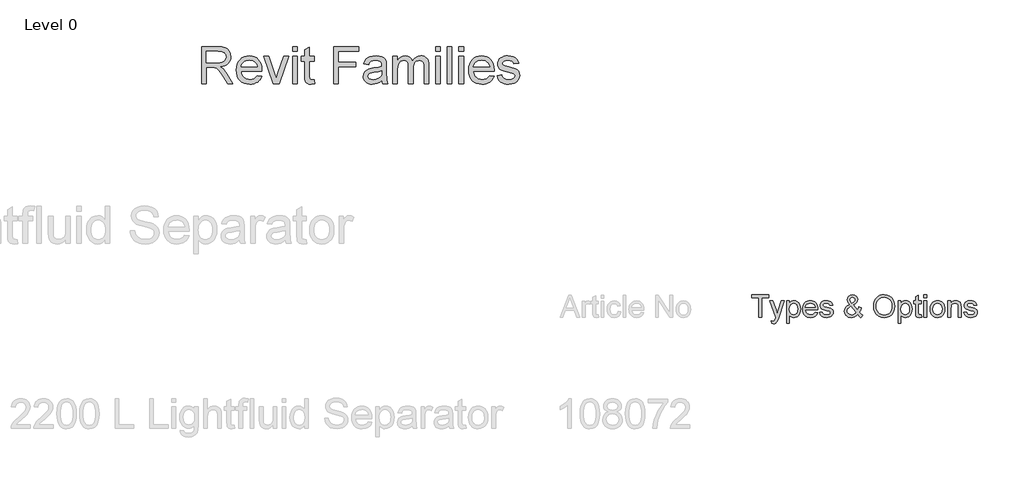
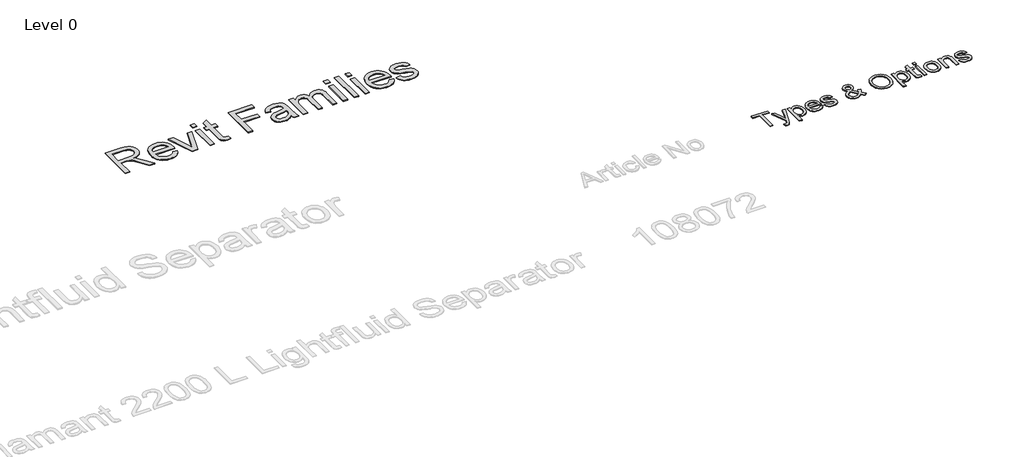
# One storey, part 8 of 8: 2 proxies.
"""IFC4 building model written with IfcOpenShell, lengths in millimetres."""

from ifc_helpers import new_model, si_unit, origin, origin_with_axes, place, context, project, spatial, polyline, outline, extrude, element, save

model = new_model("IFC4")

# Units and contexts
model_context = context("Model", 3, world=origin())
ifc_project = project(units=[si_unit("LENGTHUNIT", "METRE", prefix="MILLI")], contexts=[model_context])

# Site, building, storey
site = spatial("IfcSite", under=ifc_project)
building = spatial("IfcBuilding", under=site)
storey = spatial("IfcBuildingStorey", under=building, Name="Level 0", Elevation=0.0)

# Proxies
placement = place(None, origin())
element("IfcBuildingElementProxy", 1, Name="300mm Arial", ObjectType="300mm Arial", at=placement, inside=storey, context=model_context, shape_type="SweptSolid", body=[
    extrude(outline(polyline([(-1087.829451, 11653.8274553), (-1087.829451, 11917.5252695), (-1186.7161313, 11917.5252695), (-1186.7161313, 11955.1963858), (-951.2716544, 11955.1963858), (-951.2716544, 11917.5252695), (-1050.1583347, 11917.5252695), (-1050.1583347, 11653.8274553), (-1087.829451, 11653.8274553)])), origin_with_axes(), (0.0, 0.0, 1.0), 10.0),
    extrude(outline(polyline([(-913.6005381, 11569.0674436), (-918.3094276, 11605.3406084), (-899.1795639, 11602.0296704), (-881.3004989, 11606.186737), (-870.3376155, 11617.7750198), (-860.0369196, 11645.5133222), (-857.0938636, 11654.6367957), (-937.1449858, 11875.1452636), (-897.4137303, 11875.1452636), (-854.9601481, 11752.2726772), (-840.1712919, 11703.1236427), (-825.3824356, 11746.5337181), (-781.751631, 11875.1452636), (-742.3146811, 11875.1452636), (-819.3491709, 11648.5299546), (-839.3619515, 11599.38092), (-849.607465, 11583.690753), (-861.214142, 11572.81984), (-874.6970171, 11566.4738756), (-890.5711252, 11564.3585541), (-913.6005381, 11569.0674436)])), origin_with_axes(), (0.0, 0.0, 1.0), 10.0),
    extrude(outline(polyline([(-711.1182879, 11569.0674436), (-711.1182879, 11875.1452636), (-673.4471716, 11875.1452636), (-673.4471716, 11838.2099113), (-661.159913, 11856.4292671), (-647.4011264, 11869.4430927), (-631.3614714, 11877.2513881), (-612.2316076, 11879.8541532), (-586.7557795, 11876.2121214), (-564.4805247, 11865.2860262), (-546.3439423, 11847.738055), (-533.2841315, 11824.2303955), (-525.3930627, 11796.473699), (-522.7627064, 11766.1786167), (-525.7333535, 11733.9613509), (-534.6452949, 11705.1469937), (-549.2134219, 11681.1978758), (-569.152626, 11663.5763282), (-592.3751769, 11652.7330064), (-616.7933444, 11649.1185658), (-634.1113893, 11651.5373899), (-649.5716301, 11658.7938623), (-662.8061849, 11669.7475487), (-673.4471716, 11683.2580149), (-673.4471716, 11569.0674436), (-711.1182879, 11569.0674436)]), holes=[polyline([(-673.4471716, 11762.7205259), (-669.3728785, 11728.9489587), (-657.1499992, 11705.3309347), (-639.1145844, 11691.4249952), (-617.6026848, 11686.7896821), (-595.7412972, 11691.5905421), (-577.2460299, 11705.9931223), (-564.6368745, 11730.475669), (-560.4338227, 11765.5164291), (-564.535707, 11799.1040552), (-576.8413597, 11823.0531731), (-594.8491834, 11837.4005709), (-616.0575804, 11842.1830369), (-637.3487509, 11837.0970683), (-656.0463533, 11821.8391625), (-669.096967, 11796.8875662), (-673.4471716, 11762.7205259)])]), origin_with_axes(), (0.0, 0.0, 1.0), 10.0),
    extrude(outline(polyline([(-325.4308042, 11719.7519089), (-288.4954519, 11715.0430193), (-301.8035831, 11687.2127464), (-323.0395712, 11666.4090196), (-351.7251698, 11653.4411792), (-387.3821322, 11649.1185658), (-410.7564345, 11650.9832677), (-431.5831539, 11656.5773732), (-449.8622905, 11665.9008826), (-465.5938444, 11678.9537956), (-478.2443865, 11695.3728289), (-487.280488, 11714.794699), (-492.7021489, 11737.2194059), (-494.5093692, 11762.6469495), (-492.6837548, 11788.9367166), (-487.2069116, 11812.1086838), (-478.0788396, 11832.162851), (-465.2995388, 11849.0992184), (-449.6093717, 11862.5545023), (-431.7487008, 11872.1654195), (-411.7175262, 11877.9319697), (-389.5158478, 11879.8541532), (-368.02924, 11877.9365683), (-348.5981728, 11872.1838136), (-331.2226464, 11862.5958891), (-315.9026605, 11849.1727948), (-303.396972, 11832.2732156), (-294.4643373, 11812.2558366), (-289.1047564, 11789.1206576), (-287.3182295, 11762.8676787), (-287.5389587, 11752.7141356), (-456.8382529, 11752.7141356), (-450.3175445, 11724.5159807), (-435.1700034, 11703.7858303), (-413.3086158, 11691.0387191), (-386.6463682, 11686.7896821), (-366.5967995, 11688.7578508), (-349.7110159, 11694.6623568), (-335.9890175, 11704.8710822), (-325.4308042, 11719.7519089)]), holes=[polyline([(-456.8382529, 11790.3852519), (-324.9893458, 11790.3852519), (-330.0845114, 11810.2876679), (-340.0725076, 11824.5247011), (-362.0350627, 11837.7684529), (-389.6630006, 11842.1830369), (-415.0560553, 11838.6605668), (-436.0529201, 11828.0931565), (-450.6486383, 11811.6212401), (-456.8382529, 11790.3852519)])]), origin_with_axes(), (0.0, 0.0, 1.0), 10.0),
    extrude(outline(polyline([(-263.7737818, 11719.7519089), (-226.1026655, 11724.4607984), (-220.1613713, 11708.347567), (-208.6650589, 11696.5017668), (-191.5401521, 11689.2177033), (-168.7130743, 11686.7896821), (-146.1619079, 11689.0153682), (-130.306194, 11695.6924264), (-120.9252031, 11705.3677229), (-117.7982061, 11716.5881237), (-120.9435972, 11726.1898438), (-130.3797704, 11733.5106955), (-169.1545326, 11744.2528497), (-225.8819363, 11762.6837377), (-240.2385312, 11771.9451669), (-250.6403946, 11784.2048344), (-256.9587678, 11798.6809909), (-259.0648923, 11814.5918872), (-257.3726351, 11829.1876054), (-252.2958636, 11842.6612835), (-244.2944302, 11854.4794926), (-233.8281874, 11864.1088038), (-209.8790695, 11875.2556282), (-177.4686657, 11879.8541532), (-152.9493308, 11878.0055461), (-131.6305691, 11872.4597251), (-114.4872682, 11863.7593159), (-102.4943151, 11852.4469445), (-94.548064, 11837.6856795), (-89.5448689, 11818.6385892), (-127.2159852, 11813.9296996), (-131.97086, 11825.7846969), (-141.379442, 11834.7150324), (-155.5337018, 11840.3160357), (-174.5256098, 11842.1830369), (-196.1570711, 11840.3988092), (-210.5780453, 11835.0461262), (-218.6898433, 11827.3206043), (-221.393776, 11818.41786), (-216.9056156, 11807.4549765), (-202.8525234, 11799.1408434), (-170.4053314, 11791.1210159), (-115.1126676, 11773.3891038), (-100.5077523, 11764.9094238), (-89.4345043, 11753.3027468), (-82.4539434, 11738.5322847), (-80.1270898, 11720.5612493), (-82.8586136, 11701.9832085), (-91.0531851, 11684.5088137), (-104.3981044, 11669.5084254), (-122.5806721, 11658.3524039), (-144.5432272, 11651.4270253), (-169.228109, 11649.1185658), (-207.211925, 11653.5699379), (-234.9318334, 11666.9240544), (-253.4362977, 11689.0337623), (-263.7737818, 11719.7519089)])), origin_with_axes(), (0.0, 0.0, 1.0), 10.0),
    extrude(outline(polyline([(252.8061158, 11691.0571132), (233.657858, 11672.7089987), (212.8541311, 11659.6032027), (190.3581471, 11651.739725), (166.1331178, 11649.1185658), (144.1521685, 11651.0591433), (124.5624523, 11656.8808759), (107.363969, 11666.5837635), (92.5567187, 11680.1678062), (76.0572112, 11706.9680095), (70.5573754, 11736.748057), (74.9811564, 11763.1435902), (88.2524994, 11786.8535848), (110.316222, 11807.8596467), (141.1171421, 11826.1433819), (114.8135794, 11864.2559566), (108.2284917, 11892.5092938), (113.4156278, 11917.9483338), (128.9770362, 11939.8189184), (152.3927252, 11954.8836861), (181.1427032, 11959.9052753), (208.4947295, 11955.1044153), (230.3653141, 11940.7018352), (244.7127119, 11919.5670146), (249.4951779, 11894.569433), (245.9543137, 11873.5817652), (235.331721, 11854.1759899), (217.6274, 11836.3521072), (192.8413506, 11820.1101172), (247.3614623, 11752.1991008), (256.6504827, 11771.6048761), (263.6218465, 11793.9169191), (301.2929628, 11785.7499388), (289.7046799, 11750.8563316), (274.6583063, 11723.7250344), (296.0690385, 11698.7458469), (320.1285209, 11678.107667), (291.8751837, 11649.1185658), (272.6533495, 11666.7033252), (252.8061158, 11691.0571132)]), holes=[polyline([(227.569411, 11718.2068045), (160.3205822, 11802.1574758), (134.6332219, 11785.7683329), (118.9338578, 11770.5932006), (110.9048332, 11756.09865), (108.2284917, 11741.7512522), (111.8889176, 11723.9825518), (122.8701951, 11705.5516639), (140.5653191, 11691.4801775), (164.3672842, 11686.7896821), (181.4094176, 11688.97858), (198.9849799, 11695.5452736), (215.0522261, 11705.5884521), (227.569411, 11718.2068045)]), polyline([(173.7850633, 11843.875294), (193.4851441, 11856.3740848), (204.7607272, 11867.2358007), (210.058228, 11877.803211), (211.8240616, 11889.419085), (209.4972079, 11902.5800634), (202.5166471, 11913.0738973), (192.0412073, 11919.9440936), (179.2297168, 11922.234159), (166.1423148, 11919.9624877), (155.4277517, 11913.1474737), (148.2816439, 11903.05831), (145.899608, 11890.9641894), (149.1369696, 11877.1686146), (158.9226307, 11861.8279354), (173.7850633, 11843.875294)])]), origin_with_axes(), (0.0, 0.0, 1.0), 10.0),
    extrude(outline(polyline([(466.1040966, 11800.538795), (468.6148912, 11835.8876562), (476.1472751, 11867.1806184), (488.7012482, 11894.4176817), (506.2768105, 11917.5988459), (527.8208998, 11936.1079088), (552.280454, 11949.328668), (579.655473, 11957.2611235), (609.9459567, 11959.9052753), (649.4748771, 11954.9388684), (684.9203074, 11940.0396476), (714.350867, 11916.2560766), (735.8351755, 11884.6366191), (748.9685627, 11846.7079854), (753.3463585, 11803.9968858), (748.7386365, 11760.715569), (734.9154705, 11722.2535064), (712.6402157, 11690.5788667), (682.6762272, 11667.6598184), (647.5342996, 11653.7538789), (609.7252275, 11649.1185658), (569.5893019, 11654.2413226), (533.9415365, 11669.6095929), (504.5845533, 11693.8346223), (483.320974, 11725.5276562), (470.408316, 11761.993959), (466.1040966, 11800.538795)]), holes=[polyline([(503.7752129, 11800.170913), (505.6583089, 11775.1963241), (511.3075968, 11753.0268353), (520.7230766, 11733.6624468), (533.9047483, 11717.1031585), (549.9283085, 11703.8410126), (567.8694535, 11694.3680512), (587.7281835, 11688.6842744), (609.5044983, 11686.7896821), (631.6532937, 11688.7026685), (651.7465484, 11694.4416276), (669.7842625, 11704.0065595), (685.7664359, 11717.3974641), (698.8515387, 11734.3062403), (708.1980406, 11754.4247869), (713.8059418, 11777.7531039), (715.6752422, 11804.2911914), (712.4746688, 11837.6396942), (702.8729487, 11866.4632485), (687.1184023, 11890.0352874), (665.4593498, 11907.6292438), (639.3305311, 11918.5829302), (610.1666859, 11922.234159), (589.1468284, 11920.4752232), (569.6444842, 11915.1984159), (551.6596531, 11906.4037369), (535.1923353, 11894.0911864), (521.4473443, 11877.6675546), (511.6294935, 11856.5396317), (505.7387831, 11830.7074179), (503.7752129, 11800.170913)])]), origin_with_axes(), (0.0, 0.0, 1.0), 10.0),
    extrude(outline(polyline([(800.4352538, 11569.0674436), (800.4352538, 11875.1452636), (838.1063701, 11875.1452636), (838.1063701, 11838.2099113), (850.3936288, 11856.4292671), (864.1524154, 11869.4430927), (880.1920704, 11877.2513881), (899.3219341, 11879.8541532), (924.7977623, 11876.2121214), (947.0730171, 11865.2860262), (965.2095995, 11847.738055), (978.2694103, 11824.2303955), (986.1604791, 11796.473699), (988.7908354, 11766.1786167), (985.8201883, 11733.9613509), (976.9082469, 11705.1469937), (962.3401199, 11681.1978758), (942.4009158, 11663.5763282), (919.1783648, 11652.7330064), (894.7601974, 11649.1185658), (877.4421525, 11651.5373899), (861.9819116, 11658.7938623), (848.7473569, 11669.7475487), (838.1063701, 11683.2580149), (838.1063701, 11569.0674436), (800.4352538, 11569.0674436)]), holes=[polyline([(838.1063701, 11762.7205259), (842.1806632, 11728.9489587), (854.4035425, 11705.3309347), (872.4389573, 11691.4249952), (893.950857, 11686.7896821), (915.8122446, 11691.5905421), (934.3075119, 11705.9931223), (946.9166673, 11730.475669), (951.1197191, 11765.5164291), (947.0178348, 11799.1040552), (934.7121821, 11823.0531731), (916.7043584, 11837.4005709), (895.4959614, 11842.1830369), (874.2047909, 11837.0970683), (855.5071885, 11821.8391625), (842.4565747, 11796.8875662), (838.1063701, 11762.7205259)])]), origin_with_axes(), (0.0, 0.0, 1.0), 10.0),
    extrude(outline(polyline([(1111.2219634, 11685.2445777), (1115.9308529, 11652.7238093), (1087.7510921, 11649.1185658), (1069.669692, 11650.6820643), (1056.1868169, 11655.3725597), (1046.6586732, 11662.6014409), (1040.4414675, 11671.7800967), (1037.0201649, 11687.5438402), (1035.8797308, 11714.5279845), (1035.8797308, 11837.4741473), (1007.6263935, 11837.4741473), (1007.6263935, 11875.1452636), (1035.8797308, 11875.1452636), (1035.8797308, 11928.9296113), (1073.5508471, 11951.0761074), (1073.5508471, 11875.1452636), (1111.2219634, 11875.1452636), (1111.2219634, 11837.4741473), (1073.5508471, 11837.4741473), (1073.5508471, 11715.6316305), (1075.5374098, 11696.2074612), (1081.9753447, 11689.3280679), (1094.8144264, 11686.7896821), (1111.2219634, 11685.2445777)])), origin_with_axes(), (0.0, 0.0, 1.0), 10.0),
    extrude(outline(polyline([(1148.8930797, 11917.5252695), (1148.8930797, 11955.1963858), (1186.564196, 11955.1963858), (1186.564196, 11917.5252695), (1148.8930797, 11917.5252695)])), origin_with_axes(), (0.0, 0.0, 1.0), 10.0),
    extrude(outline(polyline([(1148.8930797, 11653.8274553), (1148.8930797, 11875.1452636), (1186.564196, 11875.1452636), (1186.564196, 11653.8274553), (1148.8930797, 11653.8274553)])), origin_with_axes(), (0.0, 0.0, 1.0), 10.0),
    extrude(outline(polyline([(1233.6530914, 11764.4863595), (1235.6902379, 11793.1489654), (1241.8016776, 11817.8476429), (1251.9874103, 11838.5823918), (1266.2474361, 11855.3532123), (1280.604031, 11866.0723739), (1296.4505479, 11873.728918), (1313.786987, 11878.3228444), (1332.6133481, 11879.8541532), (1353.3963815, 11877.9894513), (1372.1882537, 11872.3953457), (1388.9889646, 11863.0718364), (1403.7985141, 11850.0189234), (1415.8857369, 11833.678065), (1424.5194675, 11814.4907197), (1429.6997059, 11792.4568874), (1431.426452, 11767.5765682), (1428.3730314, 11729.5191758), (1419.2127697, 11700.5484687), (1404.2123814, 11678.8526281), (1383.6385808, 11662.619835), (1359.2020193, 11652.4938831), (1332.6133481, 11649.1185658), (1311.526812, 11650.9763699), (1292.5601958, 11656.5497821), (1275.7134997, 11665.8388025), (1260.9867236, 11678.843431), (1249.0282595, 11695.3429385), (1240.4864994, 11715.1165957), (1235.3614434, 11738.1644027), (1233.6530914, 11764.4863595)]), holes=[polyline([(1271.3242077, 11764.5599359), (1275.6836093, 11730.466472), (1288.7618142, 11706.1770632), (1308.443501, 11691.6365274), (1332.6133481, 11686.7896821), (1356.6728305, 11691.6641185), (1376.3177291, 11706.2874278), (1389.395934, 11730.8987333), (1393.7553357, 11765.7371583), (1389.3683429, 11798.8373408), (1376.2073645, 11822.7956557), (1356.5348748, 11837.3361916), (1332.6133481, 11842.1830369), (1308.443501, 11837.3545857), (1288.7618142, 11822.8692321), (1275.6836093, 11798.6350057), (1271.3242077, 11764.5599359)])]), origin_with_axes(), (0.0, 0.0, 1.0), 10.0),
    extrude(outline(polyline([(1473.8064578, 11653.8274553), (1473.8064578, 11875.1452636), (1511.4775741, 11875.1452636), (1511.4775741, 11844.243176), (1524.5649761, 11859.8229785), (1540.2827343, 11870.9514089), (1558.6308488, 11877.6284671), (1579.6093196, 11879.8541532), (1598.1781633, 11878.0607284), (1615.1835086, 11872.6804543), (1629.3653595, 11864.3847153), (1639.4637202, 11853.8448961), (1650.7576975, 11826.1433819), (1652.7442603, 11789.7230644), (1652.7442603, 11653.8274553), (1615.073144, 11653.8274553), (1615.073144, 11784.6462928), (1610.7321364, 11817.9764016), (1604.7264628, 11827.9000184), (1595.3914572, 11835.5979492), (1583.4260953, 11840.5367649), (1569.529353, 11842.1830369), (1547.4656303, 11838.4858228), (1528.6576633, 11827.3941807), (1521.1413743, 11818.3396851), (1515.7725964, 11805.9650544), (1511.4775741, 11771.2553882), (1511.4775741, 11653.8274553), (1473.8064578, 11653.8274553)])), origin_with_axes(), (0.0, 0.0, 1.0), 10.0),
    extrude(outline(polyline([(1690.4153766, 11719.7519089), (1728.0864929, 11724.4607984), (1734.0277871, 11708.347567), (1745.5240994, 11696.5017668), (1762.6490063, 11689.2177033), (1785.4760841, 11686.7896821), (1808.0272504, 11689.0153682), (1823.8829644, 11695.6924264), (1833.2639553, 11705.3677229), (1836.3909523, 11716.5881237), (1833.2455612, 11726.1898438), (1823.809388, 11733.5106955), (1785.0346257, 11744.2528497), (1728.3072221, 11762.6837377), (1713.9506272, 11771.9451669), (1703.5487638, 11784.2048344), (1697.2303905, 11798.6809909), (1695.1242661, 11814.5918872), (1696.8165233, 11829.1876054), (1701.8932948, 11842.6612835), (1709.8947282, 11854.4794926), (1720.360971, 11864.1088038), (1744.3100889, 11875.2556282), (1776.7204926, 11879.8541532), (1801.2398276, 11878.0055461), (1822.5585892, 11872.4597251), (1839.7018902, 11863.7593159), (1851.6948433, 11852.4469445), (1859.6410944, 11837.6856795), (1864.6442895, 11818.6385892), (1826.9731732, 11813.9296996), (1822.2182984, 11825.7846969), (1812.8097164, 11834.7150324), (1798.6554566, 11840.3160357), (1779.6635486, 11842.1830369), (1758.0320873, 11840.3988092), (1743.6111131, 11835.0461262), (1735.4993151, 11827.3206043), (1732.7953824, 11818.41786), (1737.2835428, 11807.4549765), (1751.336635, 11799.1408434), (1783.7838269, 11791.1210159), (1839.0764908, 11773.3891038), (1853.681406, 11764.9094238), (1864.7546541, 11753.3027468), (1871.7352149, 11738.5322847), (1874.0620686, 11720.5612493), (1871.3305447, 11701.9832085), (1863.1359733, 11684.5088137), (1849.7910539, 11669.5084254), (1831.6084863, 11658.3524039), (1809.6459312, 11651.4270253), (1784.9610493, 11649.1185658), (1746.9772333, 11653.5699379), (1719.257325, 11666.9240544), (1700.7528606, 11689.0337623), (1690.4153766, 11719.7519089)])), origin_with_axes(), (0.0, 0.0, 1.0), 10.0),
])
element("IfcBuildingElementProxy", 2, Name="600mm Arial", ObjectType="600mm Arial", at=placement, inside=storey, context=model_context, shape_type="SweptSolid", body=[
    extrude(outline(polyline([(-8637.1018415, 14819.3449091), (-8637.1018415, 15321.6264599), (-8420.664601, 15321.6264599), (-8362.4932606, 15318.2388799), (-8320.1715027, 15308.0761397), (-8289.2387583, 15289.314158), (-8265.2344581, 15260.128853), (-8249.8293995, 15223.9384618), (-8244.69438, 15184.161221), (-8246.8211978, 15158.3634961), (-8253.2016511, 15134.6810927), (-8263.8357401, 15113.1140107), (-8278.7234646, 15093.6622502), (-8298.0564298, 15076.9466121), (-8322.0262411, 15063.5878971), (-8350.6328983, 15053.5861054), (-8383.8764015, 15046.9412368), (-8363.1830393, 15033.4215735), (-8348.191848, 15020.0858512), (-8297.3015053, 14955.4612474), (-8213.5470378, 14819.3449091), (-8286.5103001, 14819.3449091), (-8351.8706679, 14923.4555138), (-8399.0821907, 14992.3720742), (-8416.6332275, 15012.4676282), (-8432.2528839, 15024.9296308), (-8462.1126392, 15036.8857956), (-8498.5329567, 15039.0930876), (-8574.3166477, 15039.0930876), (-8574.3166477, 14819.3449091), (-8637.1018415, 14819.3449091)]), holes=[polyline([(-8574.3166477, 15101.8782814), (-8433.7857255, 15101.8782814), (-8393.426005, 15104.1009018), (-8362.1100501, 15110.768763), (-8338.5349456, 15122.326389), (-8321.397776, 15139.2183039), (-8310.9591244, 15159.6510831), (-8307.4795739, 15181.8313017), (-8309.1388749, 15197.887818), (-8314.1167782, 15212.4574778), (-8322.4132836, 15225.5402813), (-8334.0283912, 15237.1362283), (-8349.2303482, 15246.6321823), (-8368.287402, 15253.4150066), (-8417.9667997, 15258.841266), (-8574.3166477, 15258.841266), (-8574.3166477, 15101.8782814)])]), origin_with_axes(), (0.0, 0.0, 1.0), 10.0),
    extrude(outline(polyline([(-7884.4152794, 14929.2189984), (-7822.8563589, 14921.3708491), (-7832.2948313, 14896.7150913), (-7845.0365775, 14874.9870609), (-7861.0815974, 14856.1867581), (-7880.4298911, 14840.3141829), (-7902.8821891, 14827.7065603), (-7928.2392221, 14818.7011157), (-7956.5009899, 14813.2978488), (-7987.6674927, 14811.4967599), (-8026.6246632, 14814.6045964), (-8061.3358622, 14823.9281057), (-8091.80109, 14839.4672879), (-8118.0203463, 14861.2221429), (-8139.1045832, 14888.5871984), (-8154.1647524, 14920.9569819), (-8163.2008539, 14958.3314933), (-8166.2128877, 15000.7107328), (-8163.170197, 15044.5270112), (-8154.042125, 15083.1469565), (-8138.8286717, 15116.5705686), (-8117.529837, 15144.7978475), (-8091.3795585, 15167.2233208), (-8061.6117737, 15183.241516), (-8028.2264827, 15192.8524332), (-7991.2236853, 15196.0560722), (-7955.4126724, 15192.8600974), (-7923.0275605, 15183.2721729), (-7894.0683497, 15167.2922987), (-7868.5350399, 15144.9204749), (-7847.6922257, 15116.7545096), (-7832.8045012, 15083.3922112), (-7823.8718665, 15044.8335796), (-7820.8943216, 15001.0786148), (-7821.2622036, 14984.156043), (-8103.4276939, 14984.156043), (-8099.7910271, 14959.1017463), (-8092.5598466, 14937.1591181), (-8081.7341525, 14918.3281585), (-8067.3139447, 14902.6088674), (-8050.0963009, 14890.2158427), (-8030.8782987, 14881.3636822), (-8009.6599382, 14876.0523859), (-7986.4412194, 14874.2819538), (-7953.0252715, 14877.5622349), (-7924.8822989, 14887.4030783), (-7902.0123015, 14904.4176205), (-7884.4152794, 14929.2189984)]), holes=[polyline([(-8103.4276939, 15046.9412368), (-7883.6795154, 15046.9412368), (-7892.1714581, 15080.1119301), (-7908.8181184, 15103.8403187), (-7925.9399596, 15116.7161886), (-7945.4223769, 15125.9132385), (-7967.2653704, 15131.4314684), (-7991.46894, 15133.2708784), (-8033.7906979, 15127.4000949), (-8052.2039581, 15120.0616155), (-8068.7854727, 15109.7877443), (-8082.6998427, 15097.0536624), (-8093.1116696, 15082.3345504), (-8100.0209533, 15065.6304086), (-8103.4276939, 15046.9412368)])]), origin_with_axes(), (0.0, 0.0, 1.0), 10.0),
    extrude(outline(polyline([(-7667.6101569, 14819.3449091), (-7797.3498739, 15188.207923), (-7730.8858601, 15188.207923), (-7652.2817404, 14967.2334712), (-7628.6146654, 14892.9213082), (-7605.4380997, 14963.0641419), (-7526.3434708, 15188.207923), (-7459.879457, 15188.207923), (-7588.0250186, 14819.3449091), (-7667.6101569, 14819.3449091)])), origin_with_axes(), (0.0, 0.0, 1.0), 10.0),
    extrude(outline(polyline([(-7404.9424124, 14819.3449091), (-7404.9424124, 15188.207923), (-7342.1572185, 15188.207923), (-7342.1572185, 14819.3449091), (-7404.9424124, 14819.3449091)])), origin_with_axes(), (0.0, 0.0, 1.0), 10.0),
    extrude(outline(polyline([(-7404.9424124, 15258.841266), (-7404.9424124, 15321.6264599), (-7342.1572185, 15321.6264599), (-7342.1572185, 15258.841266), (-7404.9424124, 15258.841266)])), origin_with_axes(), (0.0, 0.0, 1.0), 10.0),
    extrude(outline(polyline([(-7114.5608908, 14871.7067798), (-7106.7127416, 14817.5054992), (-7153.6790096, 14811.4967599), (-7183.8146764, 14814.1025907), (-7206.286135, 14821.9200831), (-7222.1663744, 14833.9682185), (-7232.5283839, 14849.2659781), (-7238.2305549, 14875.5388839), (-7240.1312785, 14920.5124578), (-7240.1312785, 15125.4227291), (-7287.2201739, 15125.4227291), (-7287.2201739, 15188.207923), (-7240.1312785, 15188.207923), (-7240.1312785, 15277.8485025), (-7177.3460847, 15314.7593293), (-7177.3460847, 15188.207923), (-7114.5608908, 15188.207923), (-7114.5608908, 15125.4227291), (-7177.3460847, 15125.4227291), (-7177.3460847, 14922.3518678), (-7174.0351467, 14889.9782522), (-7163.3052552, 14878.5125967), (-7141.9067858, 14874.2819538), (-7114.5608908, 14871.7067798)])), origin_with_axes(), (0.0, 0.0, 1.0), 10.0),
    extrude(outline(polyline([(-6847.723817, 14819.3449091), (-6847.723817, 15321.6264599), (-6510.2534001, 15321.6264599), (-6510.2534001, 15258.841266), (-6784.9386231, 15258.841266), (-6784.9386231, 15109.7264307), (-6549.4941462, 15109.7264307), (-6549.4941462, 15046.9412368), (-6784.9386231, 15046.9412368), (-6784.9386231, 14819.3449091), (-6847.723817, 14819.3449091)])), origin_with_axes(), (0.0, 0.0, 1.0), 10.0),
    extrude(outline(polyline([(-6196.3274309, 14866.4338045), (-6226.3251419, 14840.7127217), (-6257.2119011, 14823.8821204), (-6289.6928156, 14814.5931), (-6324.4729925, 14811.4967599), (-6352.428192, 14813.3591625), (-6376.9421621, 14818.9463703), (-6398.0149026, 14828.2583833), (-6415.6464137, 14841.2952015), (-6429.5684479, 14857.2290904), (-6439.5127581, 14875.2323156), (-6445.4793442, 14895.3048769), (-6447.4682062, 14917.4467745), (-6444.4638366, 14943.4744257), (-6435.4507277, 14967.1108439), (-6421.547854, 14987.3443536), (-6403.8741898, 15003.1632794), (-6383.1041855, 15015.1194442), (-6359.9122914, 15023.7646711), (-6305.5883834, 15033.2069757), (-6241.3929753, 15043.1397895), (-6196.6953129, 15054.7893861), (-6196.3274309, 15068.7689019), (-6200.6500443, 15096.7892472), (-6213.6178846, 15115.1220333), (-6226.6930239, 15123.062153), (-6242.6192486, 15128.7336671), (-6283.0249544, 15133.2708784), (-6320.4262906, 15130.2511803), (-6346.5459122, 15121.1920862), (-6364.3575322, 15104.438127), (-6376.8348632, 15078.3338337), (-6439.620057, 15086.181983), (-6428.7215529, 15120.5176359), (-6412.458103, 15147.4956488), (-6389.3121942, 15168.1276974), (-6357.7663131, 15183.425457), (-6319.1846888, 15192.8984184), (-6274.9315505, 15196.0560722), (-6232.4871653, 15193.2663004), (-6198.8412912, 15184.896985), (-6173.4727619, 15172.3123551), (-6155.8604114, 15156.8766397), (-6144.1801581, 15137.7927612), (-6136.6079203, 15114.2636419), (-6133.542237, 15059.3265973), (-6133.542237, 14981.212987), (-6130.3539264, 14872.1359755), (-6125.6327741, 14845.1732909), (-6117.8459386, 14819.3449091), (-6180.6311324, 14819.3449091), (-6190.6865736, 14841.1725742), (-6196.3274309, 14866.4338045)]), holes=[polyline([(-6196.3274309, 14992.0041922), (-6238.511233, 14981.5502122), (-6297.6176069, 14972.7517011), (-6351.6349465, 14962.5736326), (-6365.6911044, 14955.6145315), (-6376.0990992, 14946.0189428), (-6382.5370341, 14934.5226305), (-6384.6830124, 14921.8613585), (-6380.0078454, 14903.1913472), (-6365.9823443, 14887.8935876), (-6342.9130775, 14877.6848622), (-6311.1066134, 14874.2819538), (-6277.3840971, 14878.0374158), (-6247.5856555, 14889.3038019), (-6223.4280712, 14905.9044769), (-6206.6281267, 14925.6628057), (-6199.1785163, 14946.0189428), (-6196.6953129, 14974.2232291), (-6196.3274309, 14992.0041922)])]), origin_with_axes(), (0.0, 0.0, 1.0), 10.0),
    extrude(outline(polyline([(-6047.2125955, 14819.3449091), (-6047.2125955, 15188.207923), (-5984.4274016, 15188.207923), (-5984.4274016, 15127.5073938), (-5965.5427926, 15155.3897833), (-5941.2625809, 15177.2327768), (-5912.4145011, 15191.3502483), (-5879.8262877, 15196.0560722), (-5844.908155, 15191.2582778), (-5816.9184665, 15176.8648948), (-5796.0105064, 15153.8262848), (-5782.337559, 15123.0928098), (-5759.4522332, 15155.0142371), (-5733.3479399, 15177.8152566), (-5704.0246792, 15191.4958683), (-5671.4824511, 15196.0560722), (-5646.3476802, 15194.1591807), (-5624.2862568, 15188.4685061), (-5605.2981809, 15178.9840484), (-5589.3834525, 15165.7058076), (-5576.8026547, 15148.4804996), (-5567.8163705, 15127.1548402), (-5562.4246, 15101.7288294), (-5560.6273432, 15072.2024672), (-5560.6273432, 14819.3449091), (-5623.412537, 14819.3449091), (-5623.412537, 15045.2244542), (-5624.8687366, 15076.540409), (-5629.2373353, 15097.6476385), (-5637.4227097, 15112.1023352), (-5650.3292364, 15123.4606918), (-5666.9299114, 15130.8183317), (-5686.1977309, 15133.2708784), (-5703.9901903, 15131.6997157), (-5720.211487, 15126.9862276), (-5734.8616211, 15119.1304142), (-5747.9405924, 15108.1322754), (-5758.6973087, 15093.6699144), (-5766.3806774, 15075.4214346), (-5770.9906987, 15053.3868359), (-5772.5273724, 15027.5661184), (-5772.5273724, 14819.3449091), (-5835.3125663, 14819.3449091), (-5835.3125663, 15052.2142121), (-5838.945401, 15087.7148246), (-5849.8439051, 15113.0373686), (-5858.270702, 15121.8895291), (-5869.0197541, 15128.2125009), (-5897.4846235, 15133.2708784), (-5921.6728646, 15129.8986267), (-5943.9603822, 15119.7818719), (-5962.3544819, 15103.1658684), (-5974.8624698, 15080.2958711), (-5982.0361687, 15048.566049), (-5984.4274016, 15005.3705714), (-5984.4274016, 14819.3449091), (-6047.2125955, 14819.3449091)])), origin_with_axes(), (0.0, 0.0, 1.0), 10.0),
    extrude(outline(polyline([(-5466.4495524, 15258.841266), (-5466.4495524, 15321.6264599), (-5403.6643586, 15321.6264599), (-5403.6643586, 15258.841266), (-5466.4495524, 15258.841266)])), origin_with_axes(), (0.0, 0.0, 1.0), 10.0),
    extrude(outline(polyline([(-5466.4495524, 14819.3449091), (-5466.4495524, 15188.207923), (-5403.6643586, 15188.207923), (-5403.6643586, 14819.3449091), (-5466.4495524, 14819.3449091)])), origin_with_axes(), (0.0, 0.0, 1.0), 10.0),
    extrude(outline(polyline([(-5309.4865678, 14819.3449091), (-5309.4865678, 15321.6264599), (-5246.701374, 15321.6264599), (-5246.701374, 14819.3449091), (-5309.4865678, 14819.3449091)])), origin_with_axes(), (0.0, 0.0, 1.0), 10.0),
    extrude(outline(polyline([(-5152.5235832, 15258.841266), (-5152.5235832, 15321.6264599), (-5089.7383894, 15321.6264599), (-5089.7383894, 15258.841266), (-5152.5235832, 15258.841266)])), origin_with_axes(), (0.0, 0.0, 1.0), 10.0),
    extrude(outline(polyline([(-5152.5235832, 14819.3449091), (-5152.5235832, 15188.207923), (-5089.7383894, 15188.207923), (-5089.7383894, 14819.3449091), (-5152.5235832, 14819.3449091)])), origin_with_axes(), (0.0, 0.0, 1.0), 10.0),
    extrude(outline(polyline([(-4737.307438, 14929.2189984), (-4675.7485175, 14921.3708491), (-4685.1869899, 14896.7150913), (-4697.9287361, 14874.9870609), (-4713.973756, 14856.1867581), (-4733.3220497, 14840.3141829), (-4755.7743477, 14827.7065603), (-4781.1313807, 14818.7011157), (-4809.3931485, 14813.2978488), (-4840.5596513, 14811.4967599), (-4879.5168218, 14814.6045964), (-4914.2280208, 14823.9281057), (-4944.6932486, 14839.4672879), (-4970.9125049, 14861.2221429), (-4991.9967418, 14888.5871984), (-5007.056911, 14920.9569819), (-5016.0930125, 14958.3314933), (-5019.1050463, 15000.7107328), (-5016.0623556, 15044.5270112), (-5006.9342836, 15083.1469565), (-4991.7208303, 15116.5705686), (-4970.4219956, 15144.7978475), (-4944.2717171, 15167.2233208), (-4914.5039323, 15183.241516), (-4881.1186413, 15192.8524332), (-4844.1158439, 15196.0560722), (-4808.304831, 15192.8600974), (-4775.9197191, 15183.2721729), (-4746.9605083, 15167.2922987), (-4721.4271985, 15144.9204749), (-4700.5843842, 15116.7545096), (-4685.6966598, 15083.3922112), (-4676.7640251, 15044.8335796), (-4673.7864802, 15001.0786148), (-4674.1543622, 14984.156043), (-4956.3198525, 14984.156043), (-4952.6831857, 14959.1017463), (-4945.4520052, 14937.1591181), (-4934.6263111, 14918.3281585), (-4920.2061033, 14902.6088674), (-4902.9884595, 14890.2158427), (-4883.7704573, 14881.3636822), (-4862.5520968, 14876.0523859), (-4839.333378, 14874.2819538), (-4805.9174301, 14877.5622349), (-4777.7744575, 14887.4030783), (-4754.9044601, 14904.4176205), (-4737.307438, 14929.2189984)]), holes=[polyline([(-4956.3198525, 15046.9412368), (-4736.571674, 15046.9412368), (-4745.0636167, 15080.1119301), (-4761.710277, 15103.8403187), (-4778.8321182, 15116.7161886), (-4798.3145355, 15125.9132385), (-4820.157529, 15131.4314684), (-4844.3610986, 15133.2708784), (-4886.6828565, 15127.4000949), (-4905.0961167, 15120.0616155), (-4921.6776312, 15109.7877443), (-4935.5920013, 15097.0536624), (-4946.0038282, 15082.3345504), (-4952.9131119, 15065.6304086), (-4956.3198525, 15046.9412368)])]), origin_with_axes(), (0.0, 0.0, 1.0), 10.0),
    extrude(outline(polyline([(-4634.545734, 14929.2189984), (-4571.7605402, 14937.0671476), (-4561.8583831, 14910.211762), (-4542.6978625, 14890.4687615), (-4514.1563511, 14878.3286557), (-4476.1112214, 14874.2819538), (-4438.5259442, 14877.9914305), (-4412.0997543, 14889.1198609), (-4396.4647695, 14905.245355), (-4391.2531079, 14923.9460231), (-4396.4954263, 14939.9488899), (-4412.2223816, 14952.1503094), (-4476.8469854, 14970.0538998), (-4534.1446062, 14986.623918), (-4571.3926582, 15000.7720464), (-4595.3203163, 15016.2077618), (-4612.6567553, 15036.640541), (-4623.1873774, 15060.7674685), (-4626.6975848, 15087.285629), (-4623.8771561, 15111.6118259), (-4615.4158703, 15134.067956), (-4602.0801479, 15153.7649712), (-4584.63641, 15169.8138232), (-4567.299971, 15179.9152497), (-4544.7212135, 15188.391864), (-4518.6169203, 15194.1400201), (-4490.7038739, 15196.0560722), (-4449.8383156, 15192.9750605), (-4414.3070462, 15183.7320254), (-4385.7348779, 15169.2313434), (-4365.7466229, 15150.3773911), (-4352.502871, 15125.7752827), (-4344.1642125, 15094.0301322), (-4406.9494063, 15086.181983), (-4414.8741976, 15105.9403118), (-4430.5551677, 15120.8242042), (-4454.1456006, 15130.1592098), (-4485.7987806, 15133.2708784), (-4521.8512162, 15130.2971656), (-4545.8861732, 15121.3760272), (-4559.4058365, 15108.5001574), (-4563.9123909, 15093.6622502), (-4562.0423241, 15084.0053478), (-4556.4321237, 15075.3907778), (-4546.836535, 15067.6959127), (-4533.0103033, 15061.5338893), (-4478.9316501, 15048.1675101), (-4386.7772103, 15018.6143232), (-4362.4356849, 15004.4815232), (-4343.9802715, 14985.1370616), (-4332.3460034, 14960.5196248), (-4328.467914, 14930.567899), (-4333.0204537, 14899.6044978), (-4346.6780728, 14870.4805065), (-4368.9196051, 14845.4798592), (-4399.2238844, 14826.88649), (-4435.8281429, 14815.3441924), (-4476.9696127, 14811.4967599), (-4510.7611068, 14813.3514983), (-4540.2759727, 14818.9157135), (-4565.5142105, 14828.1894054), (-4586.47582, 14841.1725742), (-4603.5976612, 14857.8039061), (-4617.3165939, 14878.0220874), (-4627.6326182, 14901.8271181), (-4634.545734, 14929.2189984)])), origin_with_axes(), (0.0, 0.0, 1.0), 10.0),
])

save(model, "model.ifc")
